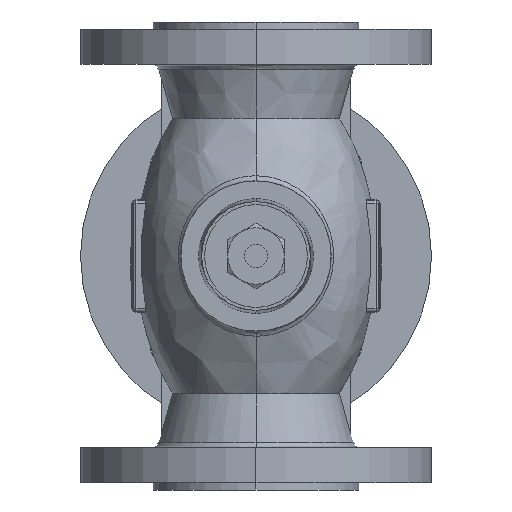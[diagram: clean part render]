
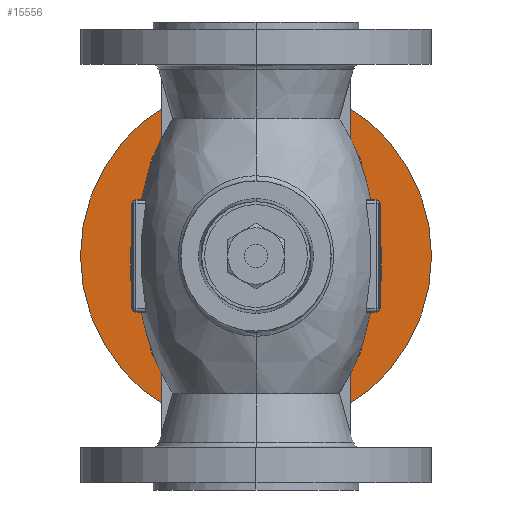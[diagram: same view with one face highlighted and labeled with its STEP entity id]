
A CAD part, front view. The second image highlights one B-rep face of the part: STEP entity #15556.
In plain terms, the highlighted planar face has unit normal (0, -1, 0).
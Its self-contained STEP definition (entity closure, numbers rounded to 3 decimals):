
#15410=CARTESIAN_POINT('',(0.0,56.992,175.0));
#15411=VERTEX_POINT('',#15410);
#15420=CARTESIAN_POINT('',(0.,56.992,25.0));
#15421=VERTEX_POINT('',#15420);
#15422=CARTESIAN_POINT('',(0.0,56.992,100.0));
#15423=DIRECTION('',(0.0,-1.0,0.0));
#15424=DIRECTION('',(0.0,0.0,1.0));
#15425=AXIS2_PLACEMENT_3D('',#15422,#15423,#15424);
#15426=CIRCLE('',#15425,75.0);
#15427=EDGE_CURVE('',#15421,#15411,#15426,.T.);
#15537=CARTESIAN_POINT('',(0.0,56.992,100.0));
#15538=DIRECTION('',(0.0,-1.0,0.0));
#15539=DIRECTION('',(0.0,0.0,1.0));
#15540=AXIS2_PLACEMENT_3D('',#15537,#15538,#15539);
#15541=CIRCLE('',#15540,75.0);
#15542=EDGE_CURVE('',#15411,#15421,#15541,.T.);
#15547=CARTESIAN_POINT('',(0.0,56.992,100.0));
#15548=DIRECTION('',(0.0,-1.0,0.0));
#15549=DIRECTION('',(0.0,0.0,-1.0));
#15550=AXIS2_PLACEMENT_3D('',#15547,#15548,#15549);
#15551=PLANE('',#15550);
#15552=ORIENTED_EDGE('',*,*,#15542,.T.);
#15553=ORIENTED_EDGE('',*,*,#15427,.T.);
#15554=EDGE_LOOP('',(#15552,#15553));
#15555=FACE_OUTER_BOUND('',#15554,.T.);
#15556=ADVANCED_FACE('',(#15555),#15551,.T.);
